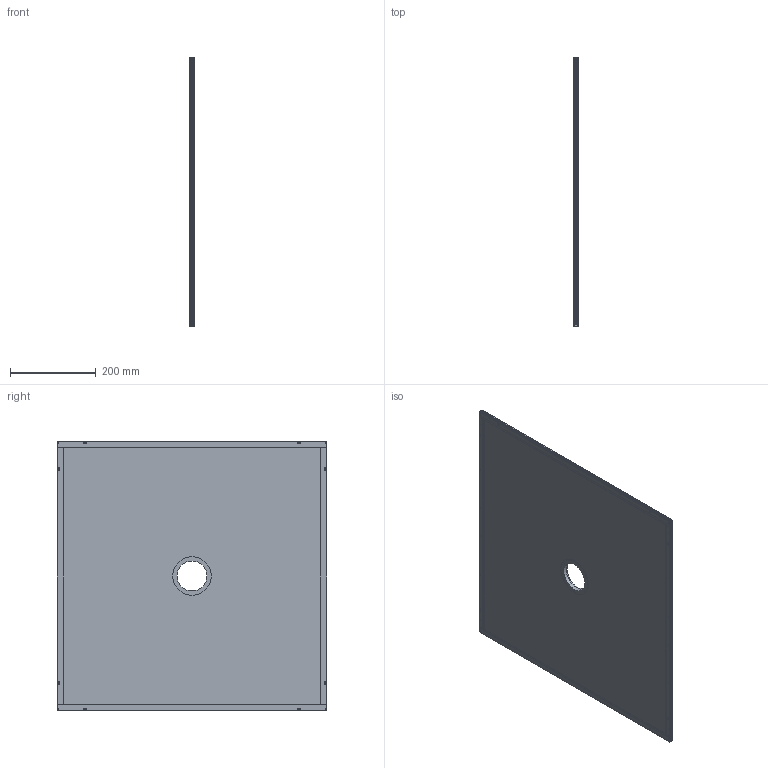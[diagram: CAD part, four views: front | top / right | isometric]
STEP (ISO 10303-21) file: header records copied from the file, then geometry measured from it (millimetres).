
FILE_DESCRIPTION (( 'STEP AP203' ), '1' );
FILE_NAME ('600X600Õý·½ÐÎ¹âÔ´.STEP', '2025-09-09T11:27:40', ( '' ), ( '' ), 'SwSTEP 2.0', 'SolidWorks 2022', '' );
FILE_SCHEMA (( 'CONFIG_CONTROL_DESIGN' ));
Length unit declared in the file: millimetre
Products named in the file (9): CKMG600-05A; 600X600 灯珠板; CKMG600-01A; CKMG600-03A; 600X600正方形光源; 600X600 进光板; CKMG600-02A; 600X600漫射板; CKMG600-04A
Assembly tree (12 placements, depth 2):
  600X600正方形光源
    CKMG600-01A
    CKMG600-02A
    CKMG600-03A  x2
    CKMG600-04A
    CKMG600-05A
    600X600漫射板
    600X600 进光板
    600X600 灯珠板  x4
Bounding box: 11 x 630 x 630 mm (x, y, z)
Volume: 3568587.5 mm3; surface area: 2438575 mm2
Topology: 32 solids, 32 shells, 3129 faces, 7612 edges, 5001 vertices
Faces by surface type: plane 2729, cylinder 276, cone 124
Entity records: 34034 total; most frequent: CARTESIAN_POINT 5739, DIRECTION 5542, ORIENTED_EDGE 5508, EDGE_CURVE 2754, VECTOR 2218, LINE 2218, VERTEX_POINT 1807, AXIS2_PLACEMENT_3D 1662
